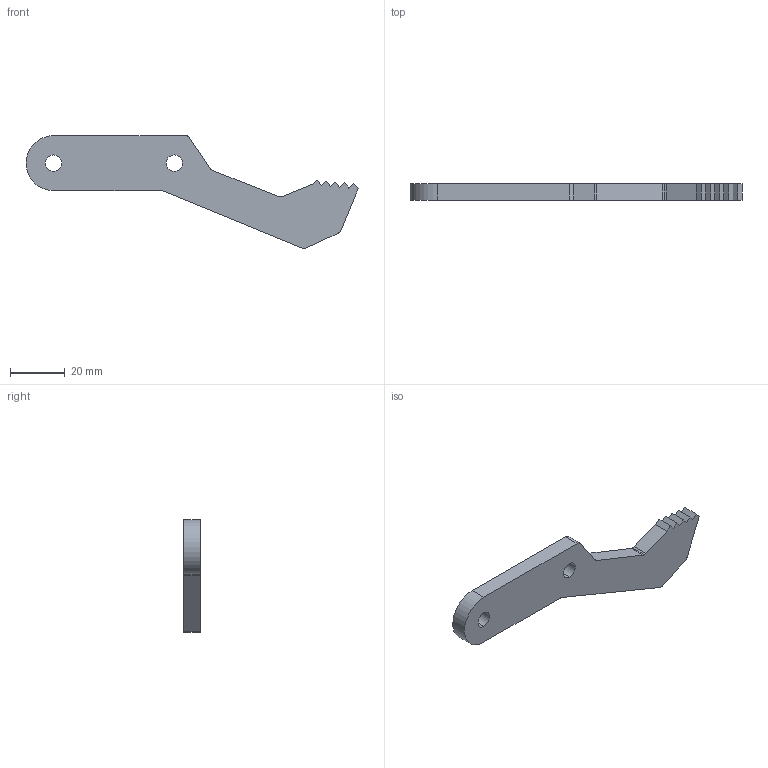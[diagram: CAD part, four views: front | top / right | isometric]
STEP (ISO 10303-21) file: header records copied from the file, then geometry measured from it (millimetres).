
FILE_DESCRIPTION (( 'STEP AP214' ), '1' );
FILE_NAME ('Gripper.STEP', '2026-04-30T16:22:47', ( '' ), ( '' ), 'SwSTEP 2.0', 'SolidWorks 2022', '' );
FILE_SCHEMA (( 'AUTOMOTIVE_DESIGN' ));
Length unit declared in the file: millimetre
Products named in the file (1): Gripper
Bounding box: 120.89 x 6 x 41.02 mm (x, y, z)
Volume: 12797.6 mm3; surface area: 6203.6 mm2
Topology: 1 solids, 1 shells, 33 faces, 93 edges, 62 vertices
Faces by surface type: plane 20, cylinder 13
Entity records: 1115 total; most frequent: CARTESIAN_POINT 189, DIRECTION 187, ORIENTED_EDGE 186, EDGE_CURVE 93, VECTOR 67, LINE 67, VERTEX_POINT 62, AXIS2_PLACEMENT_3D 60
